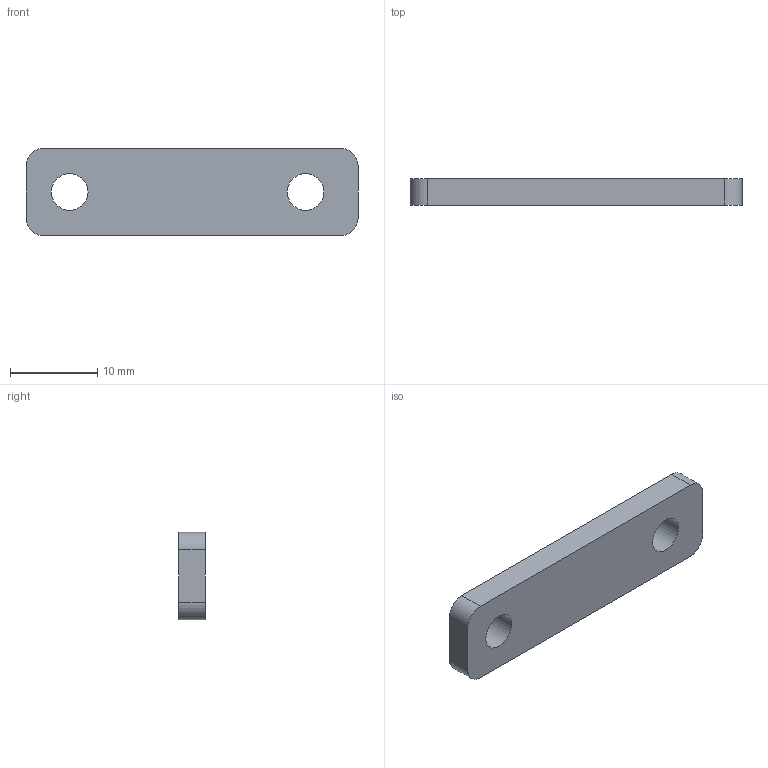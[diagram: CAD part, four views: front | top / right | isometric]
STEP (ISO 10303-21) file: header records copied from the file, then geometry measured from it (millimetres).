
FILE_DESCRIPTION(('FreeCAD Model'),'2;1');
FILE_NAME('Open CASCADE Shape Model','2026-10-14T02:29:03',('FreeCAD'),( 'FreeCAD'),'Open CASCADE STEP processor 7.8','FreeCAD','Unknown');
FILE_SCHEMA(('AUTOMOTIVE_DESIGN { 1 0 10303 214 1 1 1 1 }'));
Length unit declared in the file: millimetre
Products named in the file (1): Open CASCADE STEP translator 7.8 61
Bounding box: 38 x 3 x 10 mm (x, y, z)
Volume: 1046.6 mm3; surface area: 1054.6 mm2
Topology: 1 solids, 1 shells, 12 faces, 30 edges, 20 vertices
Faces by surface type: plane 6, cylinder 6
Full cylindrical faces by diameter (mm): 4.2 x2
Entity records: 384 total; most frequent: DIRECTION 68, CARTESIAN_POINT 63, ORIENTED_EDGE 60, EDGE_CURVE 30, AXIS2_PLACEMENT_3D 25, VERTEX_POINT 20, LINE 18, VECTOR 18
